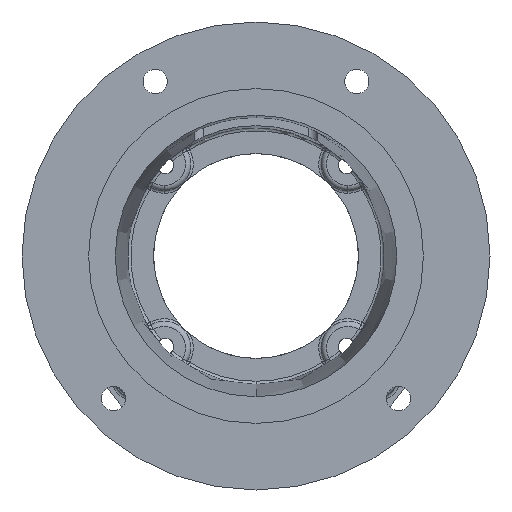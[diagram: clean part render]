
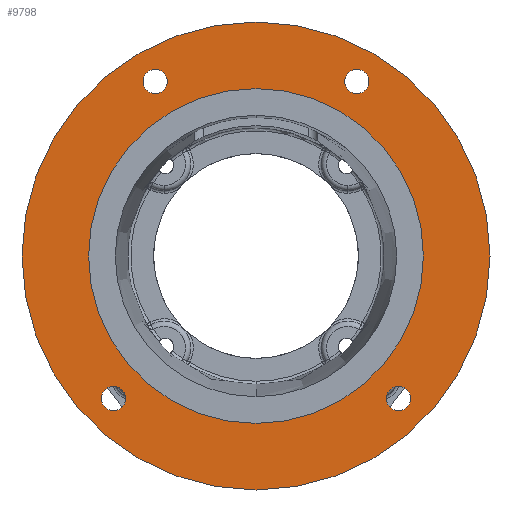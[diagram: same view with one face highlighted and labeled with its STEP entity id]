
A CAD part, front view. The second image highlights one B-rep face of the part: STEP entity #9798.
In plain terms, the highlighted planar face has unit normal (0, -1, 0).
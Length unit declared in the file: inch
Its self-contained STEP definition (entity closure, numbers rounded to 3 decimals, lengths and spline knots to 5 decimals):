
#44 = VERTEX_POINT ( 'NONE', #2422 ) ;
#251 = FACE_BOUND ( 'NONE', #739, .T. ) ;
#301 = EDGE_CURVE ( 'NONE', #5710, #516, #2105, .T. ) ;
#506 = DIRECTION ( 'NONE',  ( 0., 1., 0. ) ) ;
#516 = VERTEX_POINT ( 'NONE', #6467 ) ;
#585 = CIRCLE ( 'NONE', #10783, 0.23438 ) ;
#676 = VERTEX_POINT ( 'NONE', #3555 ) ;
#739 = EDGE_LOOP ( 'NONE', ( #3035, #10034 ) ) ;
#781 = DIRECTION ( 'NONE',  ( 0., -1., 0. ) ) ;
#800 = CIRCLE ( 'NONE', #3238, 3.2195 ) ;
#817 = DIRECTION ( 'NONE',  ( 0., 0., -1. ) ) ;
#886 = CARTESIAN_POINT ( 'NONE',  ( 0., 0., 0. ) ) ;
#1062 = AXIS2_PLACEMENT_3D ( 'NONE', #3318, #3276, #3237 ) ;
#1067 = EDGE_CURVE ( 'NONE', #9300, #44, #8759, .T. ) ;
#1188 = CARTESIAN_POINT ( 'NONE',  ( 2.74004, 0., -2.74004 ) ) ;
#1442 = AXIS2_PLACEMENT_3D ( 'NONE', #7238, #7230, #7220 ) ;
#1495 = DIRECTION ( 'NONE',  ( 0., 0., -1. ) ) ;
#1534 = DIRECTION ( 'NONE',  ( 0., 0., -1. ) ) ;
#1540 = DIRECTION ( 'NONE',  ( 0., -1., 0. ) ) ;
#1584 = CARTESIAN_POINT ( 'NONE',  ( 0., 0., 0. ) ) ;
#1976 = EDGE_CURVE ( 'NONE', #676, #10646, #5220, .T. ) ;
#1989 = ORIENTED_EDGE ( 'NONE', *, *, #4328, .T. ) ;
#2059 = DIRECTION ( 'NONE',  ( 0., 0., -1. ) ) ;
#2105 = CIRCLE ( 'NONE', #1442, 0.23438 ) ;
#2347 = EDGE_LOOP ( 'NONE', ( #1989, #9979 ) ) ;
#2383 = DIRECTION ( 'NONE',  ( 0., -1., 0. ) ) ;
#2422 = CARTESIAN_POINT ( 'NONE',  ( 2.74004, 0., -2.97441 ) ) ;
#2473 = CARTESIAN_POINT ( 'NONE',  ( 2.74004, 0., -2.50566 ) ) ;
#2642 = ORIENTED_EDGE ( 'NONE', *, *, #4249, .F. ) ;
#2808 = CIRCLE ( 'NONE', #10693, 0.23438 ) ;
#2840 = CIRCLE ( 'NONE', #1062, 0.23438 ) ;
#2864 = EDGE_LOOP ( 'NONE', ( #10561, #2642 ) ) ;
#2936 = CARTESIAN_POINT ( 'NONE',  ( 1.9375, 0., 3.12147 ) ) ;
#3019 = AXIS2_PLACEMENT_3D ( 'NONE', #886, #781, #817 ) ;
#3035 = ORIENTED_EDGE ( 'NONE', *, *, #3513, .F. ) ;
#3059 = CARTESIAN_POINT ( 'NONE',  ( 1.9375, 0., 3.59022 ) ) ;
#3226 = VERTEX_POINT ( 'NONE', #2936 ) ;
#3237 = DIRECTION ( 'NONE',  ( 0., 0., -1. ) ) ;
#3238 = AXIS2_PLACEMENT_3D ( 'NONE', #7427, #2383, #8237 ) ;
#3276 = DIRECTION ( 'NONE',  ( 0., -1., 0. ) ) ;
#3318 = CARTESIAN_POINT ( 'NONE',  ( 1.9375, 0., 3.35585 ) ) ;
#3339 = AXIS2_PLACEMENT_3D ( 'NONE', #1584, #1540, #1495 ) ;
#3513 = EDGE_CURVE ( 'NONE', #9647, #6086, #585, .T. ) ;
#3555 = CARTESIAN_POINT ( 'NONE',  ( 0., 0., 4.5 ) ) ;
#3742 = DIRECTION ( 'NONE',  ( 0., -1., 0. ) ) ;
#3759 = ORIENTED_EDGE ( 'NONE', *, *, #1067, .F. ) ;
#3888 = CIRCLE ( 'NONE', #9017, 0.23438 ) ;
#3891 = PLANE ( 'NONE',  #7833 ) ;
#4062 = DIRECTION ( 'NONE',  ( 0., -1., 0. ) ) ;
#4127 = EDGE_CURVE ( 'NONE', #10825, #6961, #10214, .T. ) ;
#4235 = FACE_OUTER_BOUND ( 'NONE', #2347, .T. ) ;
#4249 = EDGE_CURVE ( 'NONE', #7050, #3226, #2840, .T. ) ;
#4328 = EDGE_CURVE ( 'NONE', #10646, #676, #8968, .T. ) ;
#4330 = CARTESIAN_POINT ( 'NONE',  ( -1.9375, 0., 3.12147 ) ) ;
#4604 = ORIENTED_EDGE ( 'NONE', *, *, #9226, .F. ) ;
#4605 = CARTESIAN_POINT ( 'NONE',  ( 0., 0., -4.5 ) ) ;
#4654 = DIRECTION ( 'NONE',  ( 0., 0., -1. ) ) ;
#4668 = ORIENTED_EDGE ( 'NONE', *, *, #301, .F. ) ;
#4670 = AXIS2_PLACEMENT_3D ( 'NONE', #7369, #7329, #7287 ) ;
#4679 = DIRECTION ( 'NONE',  ( 0., -1., 0. ) ) ;
#4691 = CARTESIAN_POINT ( 'NONE',  ( -1.9375, 0., 3.35585 ) ) ;
#4763 = FACE_BOUND ( 'NONE', #2864, .T. ) ;
#4899 = DIRECTION ( 'NONE',  ( 0., -1., 0. ) ) ;
#5220 = CIRCLE ( 'NONE', #3019, 4.5 ) ;
#5597 = CARTESIAN_POINT ( 'NONE',  ( -4.5, 0., 0. ) ) ;
#5710 = VERTEX_POINT ( 'NONE', #7352 ) ;
#6086 = VERTEX_POINT ( 'NONE', #8572 ) ;
#6414 = CIRCLE ( 'NONE', #8512, 0.23438 ) ;
#6433 = EDGE_LOOP ( 'NONE', ( #7875, #9107 ) ) ;
#6456 = DIRECTION ( 'NONE',  ( 0., 0., 1. ) ) ;
#6467 = CARTESIAN_POINT ( 'NONE',  ( -2.74004, 0., -2.50566 ) ) ;
#6502 = FACE_BOUND ( 'NONE', #6433, .T. ) ;
#6730 = CARTESIAN_POINT ( 'NONE',  ( 0., 0., 3.2195 ) ) ;
#6847 = ORIENTED_EDGE ( 'NONE', *, *, #8215, .F. ) ;
#6895 = EDGE_CURVE ( 'NONE', #6086, #9647, #3888, .T. ) ;
#6961 = VERTEX_POINT ( 'NONE', #7962 ) ;
#7050 = VERTEX_POINT ( 'NONE', #3059 ) ;
#7112 = DIRECTION ( 'NONE',  ( 0., -1., 0. ) ) ;
#7220 = DIRECTION ( 'NONE',  ( 0., 0., -1. ) ) ;
#7230 = DIRECTION ( 'NONE',  ( 0., -1., 0. ) ) ;
#7238 = CARTESIAN_POINT ( 'NONE',  ( -2.74004, 0., -2.74004 ) ) ;
#7287 = DIRECTION ( 'NONE',  ( 0., 0., -1. ) ) ;
#7329 = DIRECTION ( 'NONE',  ( 0., -1., 0. ) ) ;
#7352 = CARTESIAN_POINT ( 'NONE',  ( -2.74004, 0., -2.97441 ) ) ;
#7369 = CARTESIAN_POINT ( 'NONE',  ( 0., 0., 0. ) ) ;
#7427 = CARTESIAN_POINT ( 'NONE',  ( 0., 0., 0. ) ) ;
#7833 = AXIS2_PLACEMENT_3D ( 'NONE', #5597, #506, #6456 ) ;
#7875 = ORIENTED_EDGE ( 'NONE', *, *, #8943, .F. ) ;
#7962 = CARTESIAN_POINT ( 'NONE',  ( 0., 0., -3.2195 ) ) ;
#8215 = EDGE_CURVE ( 'NONE', #44, #9300, #2808, .T. ) ;
#8237 = DIRECTION ( 'NONE',  ( 0., 0., -1. ) ) ;
#8512 = AXIS2_PLACEMENT_3D ( 'NONE', #9042, #4062, #9829 ) ;
#8572 = CARTESIAN_POINT ( 'NONE',  ( -1.9375, 0., 3.59022 ) ) ;
#8639 = AXIS2_PLACEMENT_3D ( 'NONE', #9826, #4899, #10642 ) ;
#8684 = FACE_BOUND ( 'NONE', #9614, .T. ) ;
#8731 = EDGE_LOOP ( 'NONE', ( #4668, #4604 ) ) ;
#8740 = CARTESIAN_POINT ( 'NONE',  ( -1.9375, 0., 3.35585 ) ) ;
#8759 = CIRCLE ( 'NONE', #10485, 0.23438 ) ;
#8834 = DIRECTION ( 'NONE',  ( 0., -1., 0. ) ) ;
#8843 = CARTESIAN_POINT ( 'NONE',  ( 2.74004, 0., -2.74004 ) ) ;
#8943 = EDGE_CURVE ( 'NONE', #6961, #10825, #800, .T. ) ;
#8968 = CIRCLE ( 'NONE', #3339, 4.5 ) ;
#9017 = AXIS2_PLACEMENT_3D ( 'NONE', #8740, #3742, #9523 ) ;
#9042 = CARTESIAN_POINT ( 'NONE',  ( 1.9375, 0., 3.35585 ) ) ;
#9107 = ORIENTED_EDGE ( 'NONE', *, *, #4127, .F. ) ;
#9226 = EDGE_CURVE ( 'NONE', #516, #5710, #9546, .T. ) ;
#9300 = VERTEX_POINT ( 'NONE', #2473 ) ;
#9523 = DIRECTION ( 'NONE',  ( 0., 0., -1. ) ) ;
#9546 = CIRCLE ( 'NONE', #8639, 0.23438 ) ;
#9614 = EDGE_LOOP ( 'NONE', ( #6847, #3759 ) ) ;
#9647 = VERTEX_POINT ( 'NONE', #4330 ) ;
#9798 = ADVANCED_FACE ( 'NONE', ( #251, #4763, #8684, #10797, #6502, #4235 ), #3891, .F. ) ;
#9826 = CARTESIAN_POINT ( 'NONE',  ( -2.74004, 0., -2.74004 ) ) ;
#9829 = DIRECTION ( 'NONE',  ( 0., 0., -1. ) ) ;
#9979 = ORIENTED_EDGE ( 'NONE', *, *, #1976, .T. ) ;
#10034 = ORIENTED_EDGE ( 'NONE', *, *, #6895, .F. ) ;
#10214 = CIRCLE ( 'NONE', #4670, 3.2195 ) ;
#10355 = EDGE_CURVE ( 'NONE', #3226, #7050, #6414, .T. ) ;
#10485 = AXIS2_PLACEMENT_3D ( 'NONE', #8843, #8834, #1534 ) ;
#10561 = ORIENTED_EDGE ( 'NONE', *, *, #10355, .F. ) ;
#10642 = DIRECTION ( 'NONE',  ( 0., 0., -1. ) ) ;
#10646 = VERTEX_POINT ( 'NONE', #4605 ) ;
#10693 = AXIS2_PLACEMENT_3D ( 'NONE', #1188, #7112, #2059 ) ;
#10783 = AXIS2_PLACEMENT_3D ( 'NONE', #4691, #4679, #4654 ) ;
#10797 = FACE_BOUND ( 'NONE', #8731, .T. ) ;
#10825 = VERTEX_POINT ( 'NONE', #6730 ) ;
